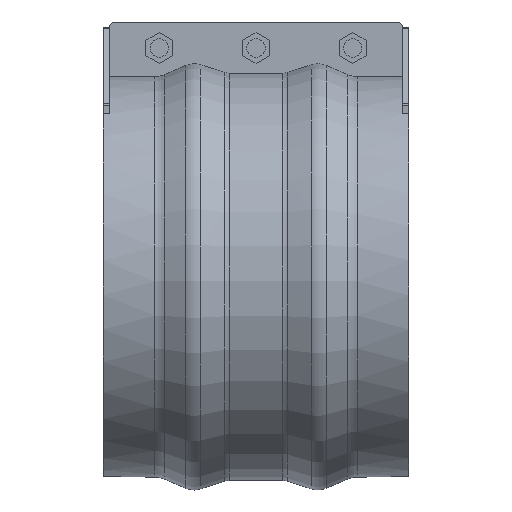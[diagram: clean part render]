
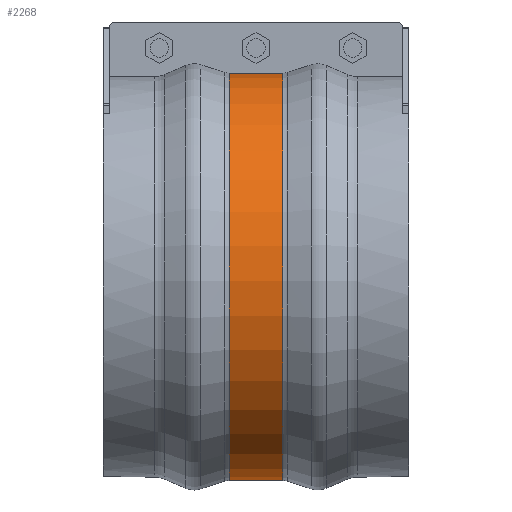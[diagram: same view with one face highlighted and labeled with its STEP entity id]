
A CAD part, front view. The second image highlights one B-rep face of the part: STEP entity #2268.
In plain terms, the highlighted cylindrical face has radius 211.44 mm (diameter 422.879 mm), a partial arc.
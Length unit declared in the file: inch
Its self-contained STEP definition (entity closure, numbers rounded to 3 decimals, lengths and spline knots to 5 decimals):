
#266=FACE_OUTER_BOUND('',#395,.T.);
#395=EDGE_LOOP('',(#1872,#1873,#1874,#1875));
#597=LINE('',#3675,#788);
#602=LINE('',#3760,#793);
#788=VECTOR('',#2968,0.3937);
#793=VECTOR('',#2977,0.3937);
#848=CIRCLE('',#2449,8.32439);
#849=CIRCLE('',#2451,8.32439);
#1054=VERTEX_POINT('',#3667);
#1055=VERTEX_POINT('',#3674);
#1066=VERTEX_POINT('',#3752);
#1067=VERTEX_POINT('',#3759);
#1333=EDGE_CURVE('',#1055,#1054,#597,.T.);
#1348=EDGE_CURVE('',#1067,#1066,#602,.T.);
#1360=EDGE_CURVE('',#1055,#1066,#848,.T.);
#1361=EDGE_CURVE('',#1054,#1067,#849,.T.);
#1872=ORIENTED_EDGE('',*,*,#1333,.T.);
#1873=ORIENTED_EDGE('',*,*,#1361,.T.);
#1874=ORIENTED_EDGE('',*,*,#1348,.T.);
#1875=ORIENTED_EDGE('',*,*,#1360,.F.);
#2053=CYLINDRICAL_SURFACE('',#2450,8.32439);
#2268=ADVANCED_FACE('',(#266),#2053,.T.);
#2449=AXIS2_PLACEMENT_3D('',#3810,#2999,#3000);
#2450=AXIS2_PLACEMENT_3D('',#3811,#3001,#3002);
#2451=AXIS2_PLACEMENT_3D('',#3812,#3003,#3004);
#2968=DIRECTION('',(-1.,0.,0.));
#2977=DIRECTION('',(1.,0.,0.));
#2999=DIRECTION('center_axis',(1.,0.,0.));
#3000=DIRECTION('ref_axis',(0.,0.,-1.));
#3001=DIRECTION('center_axis',(1.,0.,0.));
#3002=DIRECTION('ref_axis',(0.,0.,
-1.));
#3003=DIRECTION('center_axis',(1.,0.,0.));
#3004=DIRECTION('ref_axis',(0.,0.,-1.));
#3667=CARTESIAN_POINT('',(-1.08851,-0.375,8.31594));
#3674=CARTESIAN_POINT('',(1.08851,-0.375,8.31594));
#3675=CARTESIAN_POINT('',(0.,-0.375,8.31594));
#3752=CARTESIAN_POINT('',(1.08851,0.375,8.31594));
#3759=CARTESIAN_POINT('',(-1.08851,0.375,8.31594));
#3760=CARTESIAN_POINT('',(0.,0.375,8.31594));
#3810=CARTESIAN_POINT('Origin',(1.08851,0.,0.));
#3811=CARTESIAN_POINT('Origin',(0.,0.,0.));
#3812=CARTESIAN_POINT('Origin',(-1.08851,0.,
0.));
